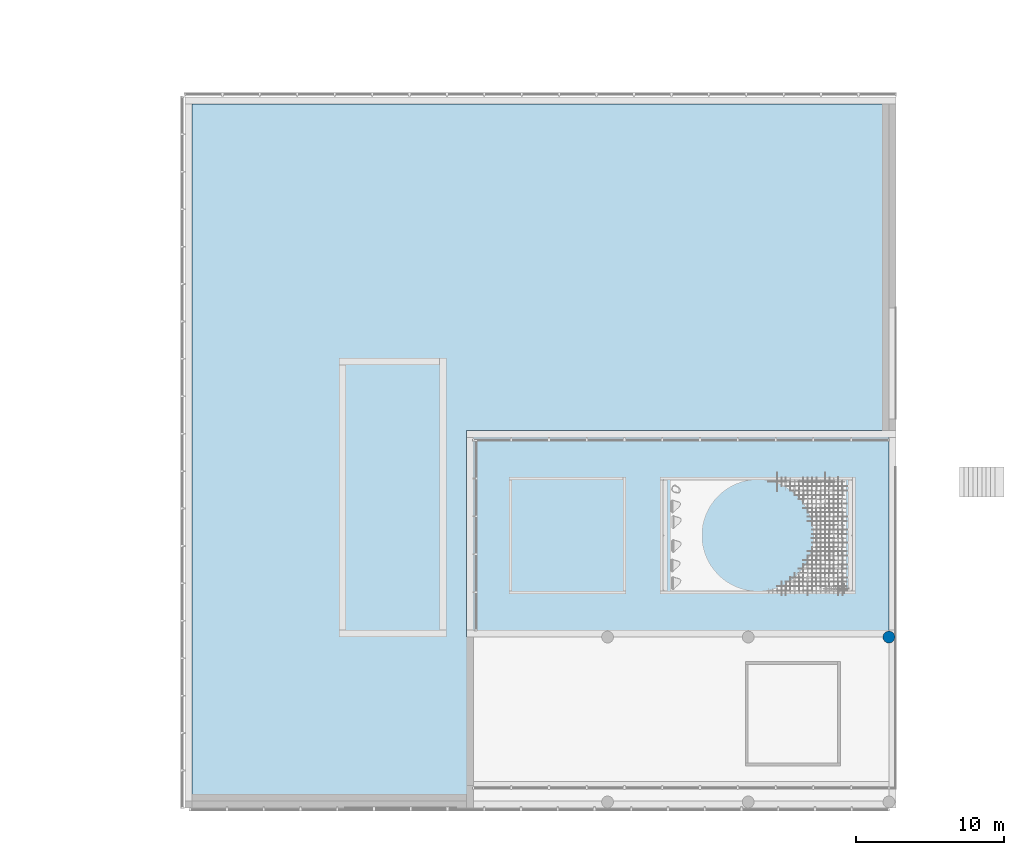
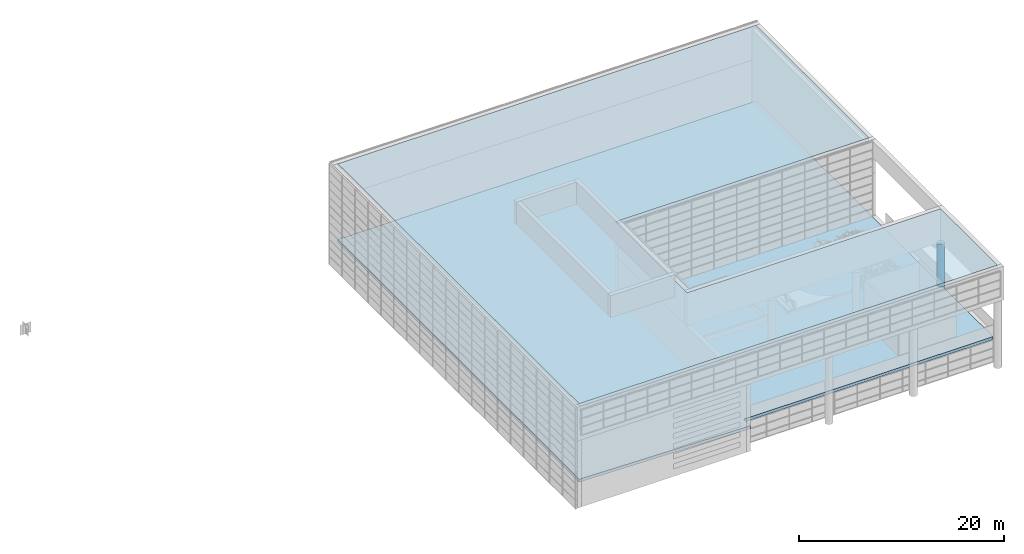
# One storey, part 4 of 105: 2 slabs, 1 column.
"""IFC4 building model written with IfcOpenShell, lengths in millimetres."""

from ifc_helpers import new_model, entity, si_unit, converted_unit, derived_unit, direction, frame, origin_with_axes, place, context, subcontext, project, spatial, triangles, material, element, save


model = new_model("IFC4")

# Units and contexts
model_context = context("Model", 3, precision=1e-05, world=origin_with_axes(), true_north=direction((0.0, 1.0)))
body_context = subcontext(model_context, "Body", "Model", "MODEL_VIEW")
ifc_project = project(units=[si_unit("LENGTHUNIT", "METRE", prefix="MILLI"), si_unit("AREAUNIT", "SQUARE_METRE"), si_unit("VOLUMEUNIT", "CUBIC_METRE"), converted_unit("PLANEANGLEUNIT", "DEGREE", entity("IfcLengthMeasure", 0.017453), si_unit("PLANEANGLEUNIT", "RADIAN"), dimensions=[0, 0, 0, 0, 0, 0, 0]), si_unit("SOLIDANGLEUNIT", "STERADIAN"), si_unit("MASSUNIT", "GRAM"), si_unit("TIMEUNIT", "SECOND"), si_unit("THERMODYNAMICTEMPERATUREUNIT", "DEGREE_CELSIUS"), si_unit("LUMINOUSINTENSITYUNIT", "LUMEN"), si_unit("POWERUNIT", "WATT"), derived_unit("THERMALTRANSMITTANCEUNIT", [(si_unit("POWERUNIT", "WATT"), 1), (si_unit("THERMODYNAMICTEMPERATUREUNIT", "KELVIN"), -1), (si_unit("AREAUNIT", "SQUARE_METRE"), -1)])], contexts=[model_context])

# Site, building, storey
site_placement = place(None, origin_with_axes())
site = spatial("IfcSite", under=ifc_project, at=site_placement, Name="Default Site", CompositionType="ELEMENT")
building_placement = place(site_placement, origin_with_axes())
building = spatial("IfcBuilding", under=site, at=building_placement, Name="Default Building", CompositionType="ELEMENT")
storey_placement = place(building_placement, origin_with_axes())
storey = spatial("IfcBuildingStorey", under=building, at=storey_placement, Name="OG - Story", CompositionType="ELEMENT", Elevation=0.0)

# Column
ifc_material_1 = material(Name="Tragende Bauteile")
column_placement = place(storey_placement, frame((79281.391327, -41059.262838, 0.0), z_axis=(0.0, 0.0, 1.0), x_axis=(1.0, 0.0, 0.0)))
element("IfcColumn", 1, at=column_placement, inside=storey, material=ifc_material_1, Name="Stütze-001", PredefinedType="NOTDEFINED", context=body_context, shape_type="Tessellation", body=[
    triangles([(-380.648, -127.078, 2650.0), (-380.648, -127.078, 0.0), (-355.334, -186.493, 0.0), (-355.334, -186.493, 2650.0), (-396.104, -64.372, 2650.0), (-396.104, -64.372, 0.0), (-401.3, 0.0, 0.0), (-396.104, 64.373, 0.0), (-380.648, 127.079, 0.0), (-355.334, 186.494, 0.0), (-320.816, 241.079, 0.0), (-277.99, 289.419, 0.0), (-227.964, 330.264, 0.0), (-172.034, 362.556, 0.0), (-111.648, 385.457, 0.0), (-48.371, 398.375, 0.0), (0.0, 400.0, 0.0), (52.21, 396.578, 0.0), (103.528, 386.37, 0.0), (153.073, 369.552, 0.0), (200.0, 346.41, 0.0), (243.505, 317.341, 0.0), (282.843, 282.843, 0.0), (317.341, 243.505, 0.0), (346.41, 200.0, 0.0), (369.552, 153.073, 0.0), (386.37, 103.528, 0.0), (396.578, 52.21, 0.0), (400.0, 0.0, 0.0), (396.578, -52.209, 0.0), (386.37, -103.527, 0.0), (369.552, -153.072, 0.0), (346.41, -199.999, 0.0), (317.341, -243.504, 0.0), (282.843, -282.842, 0.0), (243.505, -317.34, 0.0), (200.0, -346.409, 0.0), (153.073, -369.551, 0.0), (103.528, -386.369, 0.0), (52.21, -396.577, 0.0), (0.0, -399.999, 0.0), (-48.371, -398.374, 0.0), (-111.648, -385.456, 0.0), (-172.034, -362.555, 0.0), (-227.964, -330.263, 0.0), (-277.99, -289.418, 0.0), (-320.816, -241.078, 0.0), (-320.816, -241.078, 2650.0), (-317.34, 243.505, 2650.0), (-282.842, 282.843, 2650.0), (-277.99, 289.419, 2650.0), (-243.504, 317.341, 2650.0), (-227.964, 330.264, 2650.0), (-199.999, 346.41, 2650.0), (-399.999, 0.0, 2650.0), (-396.577, 52.21, 2650.0), (-396.104, 64.373, 2650.0), (-386.369, 103.528, 2650.0), (-380.648, 127.079, 2650.0), (-369.551, 153.073, 2650.0), (-355.334, 186.494, 2650.0), (-346.409, 200.0, 2650.0), (-320.816, 241.079, 2650.0), (-386.369, -103.527, 2650.0), (-396.577, -52.209, 2650.0), (-401.3, 0.0, 2650.0), (-243.504, -317.34, 2650.0), (-282.842, -282.842, 2650.0), (-277.99, -289.418, 2650.0), (-227.964, -330.263, 2650.0), (-199.999, -346.409, 2650.0), (-369.551, -153.072, 2650.0), (-346.409, -199.999, 2650.0), (-317.34, -243.504, 2650.0), (-172.034, 362.556, 2650.0), (-111.648, 385.457, 2650.0), (-48.371, 398.375, 2650.0), (0.0, 400.0, 2650.0), (0.0, 400.0, 3000.0), (52.21, 396.578, 3000.0), (103.528, 386.37, 3000.0), (153.073, 369.552, 3000.0), (200.0, 346.41, 3000.0), (243.505, 317.341, 3000.0), (282.843, 282.843, 3000.0), (317.341, 243.505, 3000.0), (346.41, 200.0, 3000.0), (369.552, 153.073, 3000.0), (386.37, 103.528, 3000.0), (396.578, 52.21, 3000.0), (400.0, 0.0, 3000.0), (396.578, -52.209, 3000.0), (386.37, -103.527, 3000.0), (369.552, -153.072, 3000.0), (346.41, -199.999, 3000.0), (317.341, -243.504, 3000.0), (282.843, -282.842, 3000.0), (243.505, -317.34, 3000.0), (200.0, -346.409, 3000.0), (153.073, -369.551, 3000.0), (103.528, -386.369, 3000.0), (52.21, -396.577, 3000.0), (0.0, -399.999, 3000.0), (0.0, -399.999, 2650.0), (-48.371, -398.374, 2650.0), (-111.648, -385.456, 2650.0), (-172.034, -362.555, 2650.0), (-199.999, -346.409, 3000.0), (-243.504, -317.34, 3000.0), (-282.842, -282.842, 3000.0), (-317.34, -243.504, 3000.0), (-346.409, -199.999, 3000.0), (-369.551, -153.072, 3000.0), (-386.369, -103.527, 3000.0), (-396.577, -52.209, 3000.0), (-399.999, 0.0, 3000.0), (-396.577, 52.21, 3000.0), (-386.369, 103.528, 3000.0), (-369.551, 153.073, 3000.0), (-346.409, 200.0, 3000.0), (-317.34, 243.505, 3000.0), (-282.842, 282.843, 3000.0), (-243.504, 317.341, 3000.0), (-199.999, 346.41, 3000.0), (-153.072, 369.552, 2650.0), (-103.527, 386.37, 2650.0), (-52.209, 396.578, 2650.0), (-52.209, 396.578, 3000.0), (389.64, 96.038, 3000.0), (400.0, 32.291, 3000.0), (200.651, 347.537, 3000.0), (253.801, 310.85, 3000.0), (300.378, 266.112, 3000.0), (339.176, 214.482, 3000.0), (369.189, 157.297, 3000.0), (-48.371, 398.375, 3000.0), (16.159, 400.976, 3000.0), (80.271, 393.191, 3000.0), (142.303, 375.223, 3000.0), (-172.034, 362.556, 3000.0), (-153.072, 369.552, 3000.0), (-111.648, 385.457, 3000.0), (-103.527, 386.37, 3000.0), (389.64, -96.037, 3000.0), (400.0, -32.29, 3000.0), (200.651, -347.536, 3000.0), (253.801, -310.849, 3000.0), (300.378, -266.111, 3000.0), (339.176, -214.481, 3000.0), (369.189, -157.296, 3000.0), (-103.527, -386.369, 3000.0), (-52.209, -396.577, 3000.0), (-48.371, -398.374, 3000.0), (16.159, -400.975, 3000.0), (80.271, -393.19, 3000.0), (142.303, -375.222, 3000.0), (-111.648, -385.456, 3000.0), (-172.034, -362.555, 3000.0), (-153.072, -369.551, 3000.0), (-52.209, -396.577, 2650.0), (-153.072, -369.551, 2650.0), (-103.527, -386.369, 2650.0), (-277.99, -289.418, 3000.0), (-227.964, -330.263, 3000.0), (-396.104, -64.372, 3000.0), (-380.648, -127.078, 3000.0), (-355.334, -186.493, 3000.0), (-320.816, -241.078, 3000.0), (-396.104, 64.373, 3000.0), (-401.3, 0.0, 3000.0), (-277.99, 289.419, 3000.0), (-227.964, 330.264, 3000.0), (-380.648, 127.079, 3000.0), (-355.334, 186.494, 3000.0), (-320.816, 241.079, 3000.0), (-227.964, 330.264, 8000.0), (-199.999, 346.41, 8000.0), (-172.034, 362.556, 8000.0), (-111.648, 385.457, 8000.0), (-48.371, 398.375, 8000.0), (16.159, 400.976, 8000.0), (80.271, 393.191, 8000.0), (142.303, 375.223, 8000.0), (200.651, 347.537, 8000.0), (253.801, 310.85, 8000.0), (300.378, 266.112, 8000.0), (339.176, 214.482, 8000.0), (369.189, 157.297, 8000.0), (389.64, 96.038, 8000.0), (400.0, 32.291, 8000.0), (-172.034, -362.555, 8000.0), (-199.999, -346.409, 8000.0), (-227.964, -330.263, 8000.0), (400.0, -32.29, 8000.0), (389.64, -96.037, 8000.0), (369.189, -157.296, 8000.0), (339.176, -214.481, 8000.0), (300.378, -266.111, 8000.0), (253.801, -310.849, 8000.0), (200.651, -347.536, 8000.0), (142.303, -375.222, 8000.0), (80.271, -393.19, 8000.0), (16.159, -400.975, 8000.0), (-48.371, -398.374, 8000.0), (-111.648, -385.456, 8000.0), (-355.334, -186.493, 8000.0), (-380.648, -127.078, 8000.0), (-396.104, -64.372, 8000.0), (-401.3, 0.0, 8000.0), (-396.104, 64.373, 8000.0), (-380.648, 127.079, 8000.0), (-355.334, 186.494, 8000.0), (-320.816, 241.079, 8000.0), (-277.99, 289.419, 8000.0), (-277.99, -289.418, 8000.0), (-320.816, -241.078, 8000.0), (-317.34, 243.505, 8000.0), (-282.842, 282.843, 8000.0), (-243.504, 317.341, 8000.0), (-399.999, 0.0, 8000.0), (-396.577, 52.21, 8000.0), (-386.369, 103.528, 8000.0), (-369.551, 153.073, 8000.0), (-346.409, 200.0, 8000.0), (-386.369, -103.527, 8000.0), (-396.577, -52.209, 8000.0), (-243.504, -317.34, 8000.0), (-282.842, -282.842, 8000.0), (-369.551, -153.072, 8000.0), (-346.409, -199.999, 8000.0), (-317.34, -243.504, 8000.0), (396.578, 52.21, 8000.0), (386.37, 103.528, 8000.0), (400.0, 0.0, 8000.0), (200.0, 346.41, 8000.0), (243.505, 317.341, 8000.0), (282.843, 282.843, 8000.0), (317.341, 243.505, 8000.0), (346.41, 200.0, 8000.0), (369.552, 153.073, 8000.0), (-52.209, 396.578, 8000.0), (0.0, 400.0, 8000.0), (52.21, 396.578, 8000.0), (103.528, 386.37, 8000.0), (153.073, 369.552, 8000.0), (-153.072, 369.552, 8000.0), (-103.527, 386.37, 8000.0), (396.578, -52.209, 8000.0), (386.37, -103.527, 8000.0), (200.0, -346.409, 8000.0), (243.505, -317.34, 8000.0), (282.843, -282.842, 8000.0), (317.341, -243.504, 8000.0), (346.41, -199.999, 8000.0), (369.552, -153.072, 8000.0), (-52.209, -396.577, 8000.0), (0.0, -399.999, 8000.0), (52.21, -396.577, 8000.0), (103.528, -386.369, 8000.0), (153.073, -369.551, 8000.0), (-153.072, -369.551, 8000.0), (-103.527, -386.369, 8000.0)], [[1, 2, 3], [1, 3, 4], [2, 1, 5], [2, 5, 6], [3, 2, 6], [3, 6, 7], [3, 7, 8], [3, 8, 9], [3, 9, 10], [3, 10, 11], [3, 11, 12], [3, 12, 13], [3, 13, 14], [3, 14, 15], [3, 15, 16], [3, 16, 17], [3, 17, 18], [3, 18, 19], [3, 19, 20], [3, 20, 21], [3, 21, 22], [3, 22, 23], [3, 23, 24], [3, 24, 25], [3, 25, 26], [3, 26, 27], [3, 27, 28], [3, 28, 29], [3, 29, 30], [3, 30, 31], [3, 31, 32], [3, 32, 33], [3, 33, 34], [3, 34, 35], [3, 35, 36], [3, 36, 37], [3, 37, 38], [3, 38, 39], [3, 39, 40], [3, 40, 41], [3, 41, 42], [3, 42, 43], [3, 43, 44], [3, 44, 45], [3, 45, 46], [3, 46, 47], [3, 47, 48], [3, 48, 4], [49, 50, 51], [51, 50, 52], [51, 52, 53], [53, 52, 54], [55, 56, 57], [57, 56, 58], [57, 58, 59], [59, 58, 60], [59, 60, 61], [61, 60, 62], [61, 62, 63], [63, 62, 49], [63, 49, 51], [64, 65, 5], [5, 65, 55], [5, 55, 66], [66, 55, 57], [67, 68, 69], [67, 69, 70], [67, 70, 71], [64, 1, 72], [72, 1, 4], [72, 4, 73], [73, 4, 48], [73, 48, 74], [74, 48, 69], [74, 69, 68], [64, 5, 1], [7, 6, 5], [7, 5, 66], [8, 7, 66], [8, 66, 57], [9, 8, 57], [9, 57, 59], [9, 59, 61], [9, 61, 10], [61, 63, 11], [61, 11, 10], [11, 63, 51], [11, 51, 12], [13, 12, 51], [13, 51, 53], [13, 53, 54], [13, 54, 75], [13, 75, 14], [75, 76, 15], [75, 15, 14], [15, 76, 77], [15, 77, 16], [17, 16, 77], [17, 77, 78], [17, 79, 80], [17, 80, 18], [19, 18, 80], [19, 80, 81], [20, 19, 81], [20, 81, 82], [21, 20, 82], [21, 82, 83], [21, 83, 84], [21, 84, 22], [22, 84, 85], [22, 85, 23], [24, 23, 85], [24, 85, 86], [87, 25, 24], [87, 24, 86], [26, 25, 87], [26, 87, 88], [26, 88, 89], [26, 89, 27], [28, 27, 89], [28, 89, 90], [29, 28, 90], [29, 90, 91], [92, 30, 29], [92, 29, 91], [31, 30, 92], [31, 92, 93], [32, 31, 93], [32, 93, 94], [33, 32, 94], [33, 94, 95], [96, 34, 33], [96, 33, 95], [35, 34, 96], [35, 96, 97], [98, 36, 35], [98, 35, 97], [99, 37, 36], [99, 36, 98], [38, 37, 99], [38, 99, 100], [39, 38, 100], [39, 100, 101], [40, 39, 101], [40, 101, 102], [41, 40, 102], [41, 102, 103], [104, 105, 42], [104, 42, 41], [42, 105, 106], [42, 106, 43], [106, 107, 44], [106, 44, 43], [45, 44, 107], [45, 107, 71], [45, 71, 70], [45, 70, 69], [45, 69, 46], [48, 47, 46], [48, 46, 69], [71, 108, 109], [71, 109, 67], [68, 67, 109], [68, 109, 110], [111, 74, 68], [111, 68, 110], [112, 73, 74], [112, 74, 111], [113, 72, 73], [113, 73, 112], [72, 113, 114], [72, 114, 64], [64, 114, 115], [64, 115, 65], [65, 115, 116], [65, 116, 55], [55, 116, 117], [55, 117, 56], [56, 117, 118], [56, 118, 58], [58, 118, 119], [58, 119, 60], [60, 119, 120], [60, 120, 62], [62, 120, 121], [62, 121, 49], [49, 121, 122], [49, 122, 50], [50, 122, 123], [50, 123, 52], [52, 123, 124], [52, 124, 54], [75, 125, 76], [76, 125, 126], [76, 126, 77], [77, 126, 127], [77, 127, 78], [125, 75, 54], [127, 128, 79], [127, 79, 78], [90, 89, 129], [90, 129, 130], [90, 130, 91], [83, 131, 84], [84, 131, 132], [84, 132, 85], [85, 132, 133], [85, 133, 86], [86, 133, 134], [86, 134, 87], [87, 134, 135], [87, 135, 88], [88, 135, 129], [88, 129, 89], [128, 136, 79], [79, 136, 137], [79, 137, 80], [80, 137, 138], [80, 138, 81], [81, 138, 139], [81, 139, 82], [82, 139, 131], [82, 131, 83], [124, 140, 141], [141, 140, 142], [141, 142, 143], [143, 142, 136], [143, 136, 128], [94, 93, 144], [144, 93, 92], [144, 92, 145], [145, 92, 91], [100, 99, 146], [146, 99, 98], [146, 98, 147], [147, 98, 97], [147, 97, 148], [148, 97, 96], [148, 96, 149], [149, 96, 95], [149, 95, 150], [150, 95, 94], [150, 94, 144], [151, 152, 153], [153, 152, 103], [153, 103, 154], [154, 103, 102], [154, 102, 155], [155, 102, 101], [155, 101, 156], [156, 101, 100], [156, 100, 146], [157, 158, 159], [157, 159, 151], [157, 151, 153], [159, 158, 108], [160, 104, 103], [160, 103, 152], [71, 107, 161], [161, 107, 106], [161, 106, 162], [162, 106, 105], [162, 105, 160], [160, 105, 104], [108, 71, 161], [108, 161, 159], [111, 110, 163], [163, 110, 109], [163, 109, 164], [164, 109, 108], [116, 115, 165], [165, 115, 114], [165, 114, 166], [166, 114, 113], [166, 113, 167], [167, 113, 112], [167, 112, 168], [168, 112, 111], [168, 111, 163], [118, 117, 169], [169, 117, 116], [169, 116, 170], [170, 116, 165], [123, 122, 171], [123, 171, 172], [123, 172, 124], [118, 173, 119], [119, 173, 174], [119, 174, 120], [120, 174, 175], [120, 175, 121], [121, 175, 171], [121, 171, 122], [118, 169, 173], [125, 54, 124], [125, 124, 141], [125, 141, 143], [125, 143, 126], [126, 143, 128], [126, 128, 127], [172, 176, 177], [172, 177, 178], [172, 178, 140], [142, 140, 178], [142, 178, 179], [142, 179, 180], [142, 180, 136], [137, 136, 180], [137, 180, 181], [182, 138, 137], [182, 137, 181], [139, 138, 182], [139, 182, 183], [131, 139, 183], [131, 183, 184], [132, 131, 184], [132, 184, 185], [133, 132, 185], [133, 185, 186], [134, 133, 186], [134, 186, 187], [188, 135, 134], [188, 134, 187], [129, 135, 188], [129, 188, 189], [130, 129, 189], [130, 189, 190], [108, 158, 191], [108, 191, 192], [108, 192, 193], [108, 193, 164], [159, 161, 162], [159, 162, 151], [160, 152, 151], [160, 151, 162], [144, 145, 194], [144, 194, 195], [150, 144, 195], [150, 195, 196], [197, 149, 150], [197, 150, 196], [148, 149, 197], [148, 197, 198], [147, 148, 198], [147, 198, 199], [200, 146, 147], [200, 147, 199], [156, 146, 200], [156, 200, 201], [202, 155, 156], [202, 156, 201], [154, 155, 202], [154, 202, 203], [153, 154, 203], [153, 203, 204], [153, 204, 205], [153, 205, 157], [158, 157, 205], [158, 205, 191], [166, 167, 206], [166, 206, 207], [166, 207, 208], [166, 208, 165], [170, 165, 208], [170, 208, 209], [169, 170, 209], [169, 209, 210], [173, 169, 210], [173, 210, 211], [173, 211, 212], [173, 212, 174], [175, 174, 212], [175, 212, 213], [175, 213, 214], [175, 214, 171], [172, 171, 214], [172, 214, 176], [164, 193, 215], [164, 215, 163], [216, 168, 163], [216, 163, 215], [167, 168, 216], [167, 216, 206], [217, 218, 214], [214, 218, 219], [214, 219, 176], [176, 219, 177], [220, 221, 210], [210, 221, 222], [210, 222, 211], [211, 222, 223], [211, 223, 212], [212, 223, 224], [212, 224, 213], [213, 224, 217], [213, 217, 214], [225, 226, 208], [208, 226, 220], [208, 220, 209], [209, 220, 210], [227, 228, 215], [227, 215, 193], [227, 193, 192], [225, 207, 229], [229, 207, 206], [229, 206, 230], [230, 206, 216], [230, 216, 231], [231, 216, 215], [231, 215, 228], [225, 208, 207], [232, 233, 189], [232, 189, 190], [232, 190, 234], [235, 184, 236], [236, 184, 185], [236, 185, 237], [237, 185, 186], [237, 186, 238], [238, 186, 187], [238, 187, 239], [239, 187, 188], [239, 188, 240], [240, 188, 189], [240, 189, 233], [241, 180, 242], [242, 180, 181], [242, 181, 243], [243, 181, 182], [243, 182, 244], [244, 182, 183], [244, 183, 245], [245, 183, 184], [245, 184, 235], [177, 178, 246], [246, 178, 179], [246, 179, 247], [247, 179, 180], [247, 180, 241], [248, 249, 195], [248, 195, 194], [248, 194, 234], [250, 200, 251], [251, 200, 199], [251, 199, 252], [252, 199, 198], [252, 198, 253], [253, 198, 197], [253, 197, 254], [254, 197, 196], [254, 196, 255], [255, 196, 195], [255, 195, 249], [256, 204, 257], [257, 204, 203], [257, 203, 258], [258, 203, 202], [258, 202, 259], [259, 202, 201], [259, 201, 260], [260, 201, 200], [260, 200, 250], [192, 191, 261], [261, 191, 205], [261, 205, 262], [262, 205, 204], [262, 204, 256], [229, 230, 231], [229, 231, 228], [229, 228, 227], [229, 227, 192], [229, 192, 261], [229, 261, 262], [229, 262, 256], [229, 256, 257], [229, 257, 258], [229, 258, 259], [229, 259, 260], [229, 260, 250], [229, 250, 251], [229, 251, 252], [229, 252, 253], [229, 253, 254], [229, 254, 255], [229, 255, 249], [229, 249, 248], [229, 248, 234], [229, 234, 232], [229, 232, 233], [229, 233, 240], [229, 240, 239], [229, 239, 238], [229, 238, 237], [229, 237, 236], [229, 236, 235], [229, 235, 245], [229, 245, 244], [229, 244, 243], [229, 243, 242], [229, 242, 241], [229, 241, 247], [229, 247, 246], [229, 246, 177], [229, 177, 219], [229, 219, 218], [229, 218, 217], [229, 217, 224], [229, 224, 223], [229, 223, 222], [229, 222, 221], [229, 221, 220], [229, 220, 226], [229, 226, 225]], closed=False),
])

# Slabs
ifc_material_2 = material(Name="Bauteil")
slab_1_placement = place(storey_placement, frame((32221.391327, -5059.262838, 3000.0), z_axis=(0.0, 0.0, 1.0), x_axis=(1.0, 0.0, 0.0)))
element("IfcSlab", 2, at=slab_1_placement, inside=storey, material=ifc_material_2, Name="Decke-001", PredefinedType="NOTDEFINED", context=body_context, shape_type="Tessellation", body=[
    triangles([(47060.0, 0.0, 0.0), (47060.0, -35599.999, 0.0), (47007.79, -35603.421, 0.0), (46956.472, -35613.629, 0.0), (46906.927, -35630.447, 0.0), (46860.0, -35653.589, 0.0), (46816.495, -35682.658, 0.0), (46777.157, -35717.156, 0.0), (46742.659, -35756.494, 0.0), (46713.59, -35799.999, 0.0), (46690.448, -35846.926, 0.0), (46673.63, -35896.471, 0.0), (46663.422, -35947.789, 0.0), (46660.0, -35999.999, 0.0), (19000.0, -46229.999, 0.0), (0.0, -47059.999, 0.0), (0.0, 0.0, 0.0), (47060.0, -46229.999, 0.0), (46663.422, -36052.209, 0.0), (46673.63, -36103.527, 0.0), (46690.448, -36153.072, 0.0), (46713.59, -36199.999, 0.0), (46742.659, -36243.504, 0.0), (46777.157, -36282.842, 0.0), (46816.495, -36317.34, 0.0), (46860.0, -36346.409, 0.0), (46906.927, -36369.551, 0.0), (46956.472, -36386.369, 0.0), (47007.79, -36396.577, 0.0), (47060.0, -36399.999, 0.0), (19000.0, -47529.999, 0.0), (46956.472, -35613.629, -349.999), (46906.927, -35630.447, -349.999), (47007.79, -35603.421, -349.999), (47060.0, -35599.999, -349.999), (47060.0, 0.0, -349.999), (0.0, 0.0, -349.999), (0.0, -47059.999, -349.999), (19000.0, -47529.999, -349.999), (19000.0, -46229.999, -349.999), (47060.0, -46229.999, -349.999), (47060.0, -36399.999, -349.999), (47007.79, -36396.577, -349.999), (46956.472, -36386.369, -349.999), (46906.927, -36369.551, -349.999), (46860.0, -36346.409, -349.999), (46816.495, -36317.34, -349.999), (46777.157, -36282.842, -349.999), (46742.659, -36243.504, -349.999), (46713.59, -36199.999, -349.999), (46690.448, -36153.072, -349.999), (46673.63, -36103.527, -349.999), (46663.422, -36052.209, -349.999), (46660.0, -35999.999, -349.999), (46663.422, -35947.789, -349.999), (46673.63, -35896.471, -349.999), (46690.448, -35846.926, -349.999), (46713.59, -35799.999, -349.999), (46742.659, -35756.494, -349.999), (46777.157, -35717.156, -349.999), (46816.495, -35682.658, -349.999), (46860.0, -35653.589, -349.999), (28446.37, -35896.471, -349.999), (28446.37, -35896.471, 0.0), (28429.552, -35846.926, 0.0), (28429.552, -35846.926, -349.999), (28456.578, -35947.789, -349.999), (28456.578, -35947.789, 0.0), (28460.0, -35999.999, -349.999), (28460.0, -35999.999, 0.0), (28456.578, -36052.209, -349.999), (28456.578, -36052.209, 0.0), (28446.37, -36103.527, -349.999), (28446.37, -36103.527, 0.0), (28429.552, -36153.072, -349.999), (28429.552, -36153.072, 0.0), (28406.41, -36199.999, -349.999), (28406.41, -36199.999, 0.0), (28377.341, -36243.504, -349.999), (28377.341, -36243.504, 0.0), (28342.843, -36282.842, -349.999), (28342.843, -36282.842, 0.0), (28303.505, -36317.34, -349.999), (28303.505, -36317.34, 0.0), (28260.0, -36346.409, -349.999), (28260.0, -36346.409, 0.0), (28213.073, -36369.551, -349.999), (28213.073, -36369.551, 0.0), (28163.528, -36386.369, -349.999), (28163.528, -36386.369, 0.0), (28112.21, -36396.577, -349.999), (28112.21, -36396.577, 0.0), (28060.0, -36399.999, -349.999), (28060.0, -36399.999, 0.0), (28007.79, -36396.577, -349.999), (28007.79, -36396.577, 0.0), (27956.472, -36386.369, -349.999), (27956.472, -36386.369, 0.0), (27906.927, -36369.551, -349.999), (27906.927, -36369.551, 0.0), (27860.0, -36346.409, -349.999), (27860.0, -36346.409, 0.0), (27816.495, -36317.34, -349.999), (27816.495, -36317.34, 0.0), (27777.157, -36282.842, -349.999), (27777.157, -36282.842, 0.0), (27742.659, -36243.504, -349.999), (27742.659, -36243.504, 0.0), (27713.59, -36199.999, -349.999), (27713.59, -36199.999, 0.0), (27690.448, -36153.072, -349.999), (27690.448, -36153.072, 0.0), (27673.63, -36103.527, -349.999), (27673.63, -36103.527, 0.0), (27663.422, -36052.209, -349.999), (27663.422, -36052.209, 0.0), (27660.0, -35999.999, -349.999), (27660.0, -35999.999, 0.0), (27663.422, -35947.789, -349.999), (27663.422, -35947.789, 0.0), (27673.63, -35896.471, -349.999), (27673.63, -35896.471, 0.0), (27690.448, -35846.926, -349.999), (27690.448, -35846.926, 0.0), (27713.59, -35799.999, -349.999), (27713.59, -35799.999, 0.0), (27742.659, -35756.494, -349.999), (27742.659, -35756.494, 0.0), (27777.157, -35717.156, -349.999), (27777.157, -35717.156, 0.0), (27816.495, -35682.658, -349.999), (27816.495, -35682.658, 0.0), (27860.0, -35653.589, -349.999), (27860.0, -35653.589, 0.0), (27906.927, -35630.447, -349.999), (27906.927, -35630.447, 0.0), (27956.472, -35613.629, -349.999), (27956.472, -35613.629, 0.0), (28007.79, -35603.421, -349.999), (28007.79, -35603.421, 0.0), (28060.0, -35599.999, -349.999), (28060.0, -35599.999, 0.0), (28112.21, -35603.421, -349.999), (28112.21, -35603.421, 0.0), (28163.528, -35613.629, -349.999), (28163.528, -35613.629, 0.0), (28213.073, -35630.447, -349.999), (28213.073, -35630.447, 0.0), (28260.0, -35653.589, -349.999), (28260.0, -35653.589, 0.0), (28303.505, -35682.658, -349.999), (28303.505, -35682.658, 0.0), (28342.843, -35717.156, -349.999), (28342.843, -35717.156, 0.0), (28377.341, -35756.494, -349.999), (28377.341, -35756.494, 0.0), (28406.41, -35799.999, -349.999), (28406.41, -35799.999, 0.0), (37946.37, -35896.471, -349.999), (37946.37, -35896.471, 0.0), (37929.552, -35846.926, 0.0), (37929.552, -35846.926, -349.999), (37956.578, -35947.789, -349.999), (37956.578, -35947.789, 0.0), (37960.0, -35999.999, -349.999), (37960.0, -35999.999, 0.0), (37956.578, -36052.209, -349.999), (37956.578, -36052.209, 0.0), (37946.37, -36103.527, -349.999), (37946.37, -36103.527, 0.0), (37929.552, -36153.072, -349.999), (37929.552, -36153.072, 0.0), (37906.41, -36199.999, -349.999), (37906.41, -36199.999, 0.0), (37877.341, -36243.504, -349.999), (37877.341, -36243.504, 0.0), (37842.843, -36282.842, -349.999), (37842.843, -36282.842, 0.0), (37803.505, -36317.34, -349.999), (37803.505, -36317.34, 0.0), (37760.0, -36346.409, -349.999), (37760.0, -36346.409, 0.0), (37713.073, -36369.551, -349.999), (37713.073, -36369.551, 0.0), (37663.528, -36386.369, -349.999), (37663.528, -36386.369, 0.0), (37612.21, -36396.577, -349.999), (37612.21, -36396.577, 0.0), (37560.0, -36399.999, -349.999), (37560.0, -36399.999, 0.0), (37507.79, -36396.577, -349.999), (37507.79, -36396.577, 0.0), (37456.472, -36386.369, -349.999), (37456.472, -36386.369, 0.0), (37406.927, -36369.551, -349.999), (37406.927, -36369.551, 0.0), (37360.0, -36346.409, -349.999), (37360.0, -36346.409, 0.0), (37316.495, -36317.34, -349.999), (37316.495, -36317.34, 0.0), (37277.157, -36282.842, -349.999), (37277.157, -36282.842, 0.0), (37242.659, -36243.504, -349.999), (37242.659, -36243.504, 0.0), (37213.59, -36199.999, -349.999), (37213.59, -36199.999, 0.0), (37190.448, -36153.072, -349.999), (37190.448, -36153.072, 0.0), (37173.63, -36103.527, -349.999), (37173.63, -36103.527, 0.0), (37163.422, -36052.209, -349.999), (37163.422, -36052.209, 0.0), (37160.0, -35999.999, -349.999), (37160.0, -35999.999, 0.0), (37163.422, -35947.789, -349.999), (37163.422, -35947.789, 0.0), (37173.63, -35896.471, -349.999), (37173.63, -35896.471, 0.0), (37190.448, -35846.926, -349.999), (37190.448, -35846.926, 0.0), (37213.59, -35799.999, -349.999), (37213.59, -35799.999, 0.0), (37242.659, -35756.494, -349.999), (37242.659, -35756.494, 0.0), (37277.157, -35717.156, -349.999), (37277.157, -35717.156, 0.0), (37316.495, -35682.658, -349.999), (37316.495, -35682.658, 0.0), (37360.0, -35653.589, -349.999), (37360.0, -35653.589, 0.0), (37406.927, -35630.447, -349.999), (37406.927, -35630.447, 0.0), (37456.472, -35613.629, -349.999), (37456.472, -35613.629, 0.0), (37507.79, -35603.421, -349.999), (37507.79, -35603.421, 0.0), (37560.0, -35599.999, -349.999), (37560.0, -35599.999, 0.0), (37612.21, -35603.421, -349.999), (37612.21, -35603.421, 0.0), (37663.528, -35613.629, -349.999), (37663.528, -35613.629, 0.0), (37713.073, -35630.447, -349.999), (37713.073, -35630.447, 0.0), (37760.0, -35653.589, -349.999), (37760.0, -35653.589, 0.0), (37803.505, -35682.658, -349.999), (37803.505, -35682.658, 0.0), (37842.843, -35717.156, -349.999), (37842.843, -35717.156, 0.0), (37877.341, -35756.494, -349.999), (37877.341, -35756.494, 0.0), (37906.41, -35799.999, -349.999), (37906.41, -35799.999, 0.0)], [[1, 2, 3], [1, 3, 4], [1, 4, 5], [1, 5, 6], [1, 6, 7], [1, 7, 8], [1, 8, 9], [1, 9, 10], [1, 10, 11], [1, 11, 12], [1, 12, 13], [1, 13, 14], [1, 14, 15], [1, 15, 16], [1, 16, 17], [18, 15, 14], [18, 14, 19], [18, 19, 20], [18, 20, 21], [18, 21, 22], [18, 22, 23], [18, 23, 24], [18, 24, 25], [18, 25, 26], [18, 26, 27], [18, 27, 28], [18, 28, 29], [18, 29, 30], [31, 16, 15], [32, 4, 5], [32, 5, 33], [34, 3, 4], [34, 4, 32], [35, 2, 3], [35, 3, 34], [1, 2, 35], [1, 35, 36], [17, 1, 36], [17, 36, 37], [16, 17, 37], [16, 37, 38], [31, 16, 38], [31, 38, 39], [15, 31, 39], [15, 39, 40], [18, 15, 40], [18, 40, 41], [41, 42, 30], [41, 30, 18], [43, 29, 30], [43, 30, 42], [44, 28, 29], [44, 29, 43], [45, 27, 28], [45, 28, 44], [46, 26, 27], [46, 27, 45], [47, 25, 26], [47, 26, 46], [48, 24, 25], [48, 25, 47], [49, 23, 24], [49, 24, 48], [50, 22, 23], [50, 23, 49], [51, 21, 22], [51, 22, 50], [52, 20, 21], [52, 21, 51], [53, 19, 20], [53, 20, 52], [54, 14, 19], [54, 19, 53], [55, 13, 14], [55, 14, 54], [56, 12, 13], [56, 13, 55], [57, 11, 12], [57, 12, 56], [58, 10, 11], [58, 11, 57], [59, 9, 10], [59, 10, 58], [60, 8, 9], [60, 9, 59], [61, 7, 8], [61, 8, 60], [62, 6, 7], [62, 7, 61], [33, 5, 6], [33, 6, 62], [63, 64, 65], [63, 65, 66], [67, 68, 64], [67, 64, 63], [69, 70, 68], [69, 68, 67], [71, 72, 70], [71, 70, 69], [73, 74, 72], [73, 72, 71], [75, 76, 74], [75, 74, 73], [77, 78, 76], [77, 76, 75], [79, 80, 78], [79, 78, 77], [81, 82, 80], [81, 80, 79], [83, 84, 82], [83, 82, 81], [85, 86, 84], [85, 84, 83], [87, 88, 86], [87, 86, 85], [89, 90, 88], [89, 88, 87], [91, 92, 90], [91, 90, 89], [93, 94, 92], [93, 92, 91], [95, 96, 94], [95, 94, 93], [97, 98, 96], [97, 96, 95], [99, 100, 98], [99, 98, 97], [101, 102, 100], [101, 100, 99], [103, 104, 102], [103, 102, 101], [105, 106, 104], [105, 104, 103], [107, 108, 106], [107, 106, 105], [109, 110, 108], [109, 108, 107], [111, 112, 110], [111, 110, 109], [113, 114, 112], [113, 112, 111], [115, 116, 114], [115, 114, 113], [117, 118, 116], [117, 116, 115], [119, 120, 118], [119, 118, 117], [121, 122, 120], [121, 120, 119], [123, 124, 122], [123, 122, 121], [125, 126, 124], [125, 124, 123], [127, 128, 126], [127, 126, 125], [129, 130, 128], [129, 128, 127], [131, 132, 130], [131, 130, 129], [133, 134, 132], [133, 132, 131], [135, 136, 134], [135, 134, 133], [137, 138, 136], [137, 136, 135], [139, 140, 138], [139, 138, 137], [141, 142, 140], [141, 140, 139], [143, 144, 142], [143, 142, 141], [145, 146, 144], [145, 144, 143], [147, 148, 146], [147, 146, 145], [149, 150, 148], [149, 148, 147], [151, 152, 150], [151, 150, 149], [153, 154, 152], [153, 152, 151], [155, 156, 154], [155, 154, 153], [157, 158, 156], [157, 156, 155], [66, 65, 158], [66, 158, 157], [159, 160, 161], [159, 161, 162], [163, 164, 160], [163, 160, 159], [165, 166, 164], [165, 164, 163], [167, 168, 166], [167, 166, 165], [169, 170, 168], [169, 168, 167], [171, 172, 170], [171, 170, 169], [173, 174, 172], [173, 172, 171], [175, 176, 174], [175, 174, 173], [177, 178, 176], [177, 176, 175], [179, 180, 178], [179, 178, 177], [181, 182, 180], [181, 180, 179], [183, 184, 182], [183, 182, 181], [185, 186, 184], [185, 184, 183], [187, 188, 186], [187, 186, 185], [189, 190, 188], [189, 188, 187], [191, 192, 190], [191, 190, 189], [193, 194, 192], [193, 192, 191], [195, 196, 194], [195, 194, 193], [197, 198, 196], [197, 196, 195], [199, 200, 198], [199, 198, 197], [201, 202, 200], [201, 200, 199], [203, 204, 202], [203, 202, 201], [205, 206, 204], [205, 204, 203], [207, 208, 206], [207, 206, 205], [209, 210, 208], [209, 208, 207], [211, 212, 210], [211, 210, 209], [213, 214, 212], [213, 212, 211], [215, 216, 214], [215, 214, 213], [217, 218, 216], [217, 216, 215], [219, 220, 218], [219, 218, 217], [221, 222, 220], [221, 220, 219], [223, 224, 222], [223, 222, 221], [225, 226, 224], [225, 224, 223], [227, 228, 226], [227, 226, 225], [229, 230, 228], [229, 228, 227], [231, 232, 230], [231, 230, 229], [233, 234, 232], [233, 232, 231], [235, 236, 234], [235, 234, 233], [237, 238, 236], [237, 236, 235], [239, 240, 238], [239, 238, 237], [241, 242, 240], [241, 240, 239], [243, 244, 242], [243, 242, 241], [245, 246, 244], [245, 244, 243], [247, 248, 246], [247, 246, 245], [249, 250, 248], [249, 248, 247], [251, 252, 250], [251, 250, 249], [253, 254, 252], [253, 252, 251], [162, 161, 254], [162, 254, 253], [36, 37, 40], [36, 40, 54], [36, 54, 55], [36, 55, 56], [36, 56, 57], [36, 57, 58], [36, 58, 59], [36, 59, 60], [36, 60, 61], [36, 61, 62], [36, 62, 33], [36, 33, 32], [36, 32, 34], [36, 34, 35], [37, 38, 39], [37, 39, 40], [41, 42, 43], [41, 43, 44], [41, 44, 45], [41, 45, 46], [41, 46, 47], [41, 47, 48], [41, 48, 49], [41, 49, 50], [41, 50, 51], [41, 51, 52], [41, 52, 53], [41, 53, 54], [41, 54, 40]], closed=False),
])
slab_2_placement = place(storey_placement, frame((32221.391327, -5059.262838, 12000.0), z_axis=(0.0, 0.0, 1.0), x_axis=(1.0, 0.0, 0.0)))
element("IfcSlab", 3, at=slab_2_placement, inside=storey, material=ifc_material_2, Name="Decke-001", PredefinedType="NOTDEFINED", context=body_context, shape_type="Tessellation", body=[
    triangles([(0.0, 0.0, 0.0), (0.0, 0.0, -349.999), (0.0, -47059.999, -349.999), (0.0, -47059.999, 0.0), (47060.0, 0.0, 0.0), (47060.0, 0.0, -349.999), (47060.0, -35999.999, -349.999), (47060.0, -47059.999, -349.999), (18530.0, -35999.999, -349.999), (18530.0, -22059.999, -349.999), (47060.0, -22059.999, -349.999), (47060.0, -47059.999, 0.0), (47060.0, -22059.999, 0.0), (18530.0, -22059.999, 0.0), (18530.0, -35999.999, 0.0), (47060.0, -35999.999, 0.0)], [[1, 2, 3], [1, 3, 4], [5, 6, 2], [5, 2, 1], [7, 8, 9], [9, 8, 3], [9, 3, 10], [10, 3, 2], [10, 2, 6], [10, 6, 11], [4, 3, 8], [4, 8, 12], [13, 5, 14], [14, 5, 1], [14, 1, 15], [15, 1, 4], [15, 4, 12], [15, 12, 16], [13, 11, 6], [13, 6, 5], [14, 10, 11], [14, 11, 13], [15, 9, 10], [15, 10, 14], [16, 7, 9], [16, 9, 15], [12, 8, 7], [12, 7, 16]], closed=False),
])

save(model, "model.ifc")
